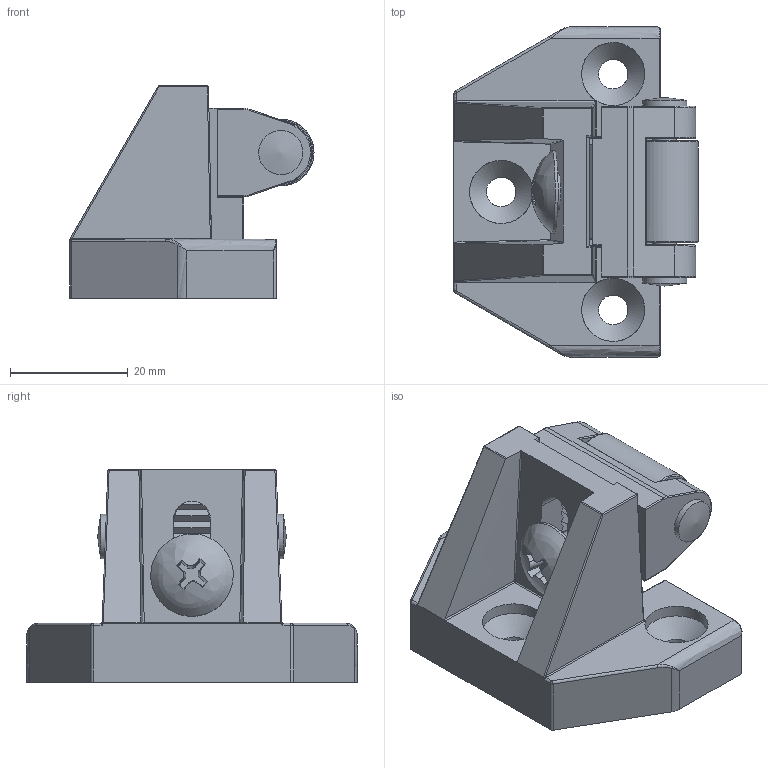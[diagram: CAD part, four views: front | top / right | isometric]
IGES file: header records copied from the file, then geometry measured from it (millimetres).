
Global section: file name: DR_D-205-L; native system: Autodesk Inventor 2015; preprocessor: unknown; author: Administrator; date: 20170724.105049; units: millimetre
Bounding box: 41.4 x 56 x 36 mm (x, y, z)
Volume: 21558.4 mm3; surface area: 17854.1 mm2
Topology: 4 solids, 4 shells, 526 faces, 1314 edges, 792 vertices
Faces by surface type: bspline 526
